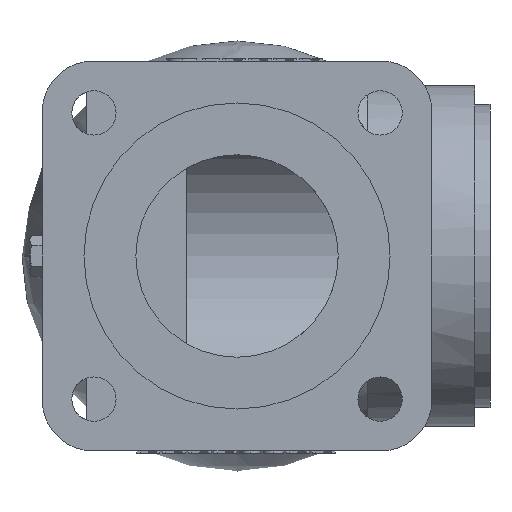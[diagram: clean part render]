
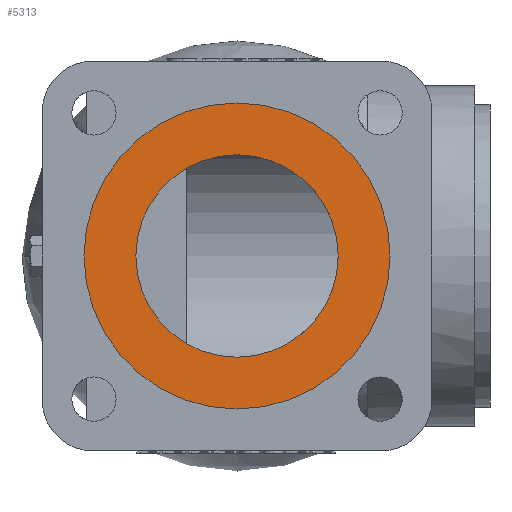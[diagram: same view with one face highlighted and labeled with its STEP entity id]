
A CAD part, front view. The second image highlights one B-rep face of the part: STEP entity #5313.
In plain terms, the highlighted planar face has unit normal (0, -1, 0).
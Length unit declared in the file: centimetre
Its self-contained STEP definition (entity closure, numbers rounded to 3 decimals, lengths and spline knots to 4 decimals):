
#279 = EDGE_CURVE ( 'NONE', #6889, #13124, #2858, .T. ) ;
#793 = EDGE_LOOP ( 'NONE', ( #10165, #9999 ) ) ;
#869 = EDGE_CURVE ( 'NONE', #8404, #2077, #9076, .T. ) ;
#1056 = AXIS2_PLACEMENT_3D ( 'NONE', #2332, #9642, #3359 ) ;
#1118 = AXIS2_PLACEMENT_3D ( 'NONE', #9191, #2919, #10229 ) ;
#1587 = FACE_OUTER_BOUND ( 'NONE', #7333, .T. ) ;
#2077 = VERTEX_POINT ( 'NONE', #9210 ) ;
#2332 = CARTESIAN_POINT ( 'NONE',  ( 0., -10.2, 0. ) ) ;
#2803 = CARTESIAN_POINT ( 'NONE',  ( 0., -10.2, 6.05 ) ) ;
#2858 = CIRCLE ( 'NONE', #1056, 4. ) ;
#2919 = DIRECTION ( 'NONE',  ( 0., -1., 0. ) ) ;
#3284 = CARTESIAN_POINT ( 'NONE',  ( 0., -10.2, -4. ) ) ;
#3315 = AXIS2_PLACEMENT_3D ( 'NONE', #3442, #10777, #4493 ) ;
#3359 = DIRECTION ( 'NONE',  ( 0., 0., -1. ) ) ;
#3442 = CARTESIAN_POINT ( 'NONE',  ( 0., -10.2, 0. ) ) ;
#3949 = PLANE ( 'NONE',  #8279 ) ;
#3962 = ORIENTED_EDGE ( 'NONE', *, *, #869, .T. ) ;
#4432 = EDGE_CURVE ( 'NONE', #13124, #6889, #5744, .T. ) ;
#4493 = DIRECTION ( 'NONE',  ( 0., 0., -1. ) ) ;
#4800 = CARTESIAN_POINT ( 'NONE',  ( 0., -10.2, 0. ) ) ;
#5087 = AXIS2_PLACEMENT_3D ( 'NONE', #4800, #12109, #5866 ) ;
#5313 = ADVANCED_FACE ( 'NONE', ( #6804, #1587 ), #3949, .F. ) ;
#5744 = CIRCLE ( 'NONE', #1118, 4. ) ;
#5866 = DIRECTION ( 'NONE',  ( 0., 0., -1. ) ) ;
#6063 = DIRECTION ( 'NONE',  ( 0., 0., 1. ) ) ;
#6804 = FACE_BOUND ( 'NONE', #793, .T. ) ;
#6889 = VERTEX_POINT ( 'NONE', #12396 ) ;
#7333 = EDGE_LOOP ( 'NONE', ( #12193, #3962 ) ) ;
#8279 = AXIS2_PLACEMENT_3D ( 'NONE', #11269, #12308, #6063 ) ;
#8404 = VERTEX_POINT ( 'NONE', #2803 ) ;
#9076 = CIRCLE ( 'NONE', #3315, 6.05 ) ;
#9191 = CARTESIAN_POINT ( 'NONE',  ( 0., -10.2, 0. ) ) ;
#9210 = CARTESIAN_POINT ( 'NONE',  ( 0., -10.2, -6.05 ) ) ;
#9642 = DIRECTION ( 'NONE',  ( 0., -1., 0. ) ) ;
#9999 = ORIENTED_EDGE ( 'NONE', *, *, #279, .F. ) ;
#10165 = ORIENTED_EDGE ( 'NONE', *, *, #4432, .F. ) ;
#10229 = DIRECTION ( 'NONE',  ( 0., 0., -1. ) ) ;
#10582 = CIRCLE ( 'NONE', #5087, 6.05 ) ;
#10777 = DIRECTION ( 'NONE',  ( 0., -1., 0. ) ) ;
#11269 = CARTESIAN_POINT ( 'NONE',  ( 4., -10.2, 0. ) ) ;
#12109 = DIRECTION ( 'NONE',  ( 0., -1., 0. ) ) ;
#12193 = ORIENTED_EDGE ( 'NONE', *, *, #12303, .T. ) ;
#12303 = EDGE_CURVE ( 'NONE', #2077, #8404, #10582, .T. ) ;
#12308 = DIRECTION ( 'NONE',  ( 0., 1., 0. ) ) ;
#12396 = CARTESIAN_POINT ( 'NONE',  ( 0., -10.2, 4. ) ) ;
#13124 = VERTEX_POINT ( 'NONE', #3284 ) ;
